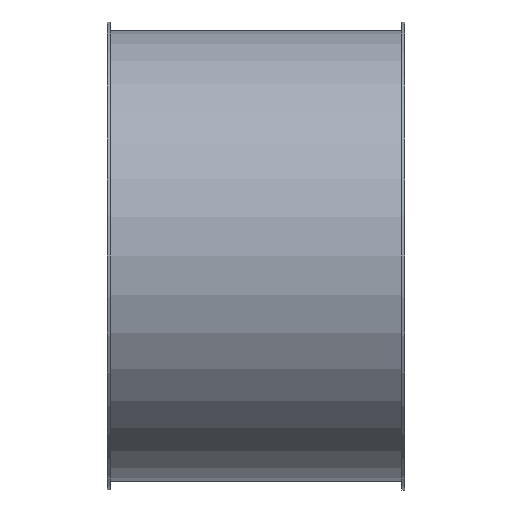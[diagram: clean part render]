
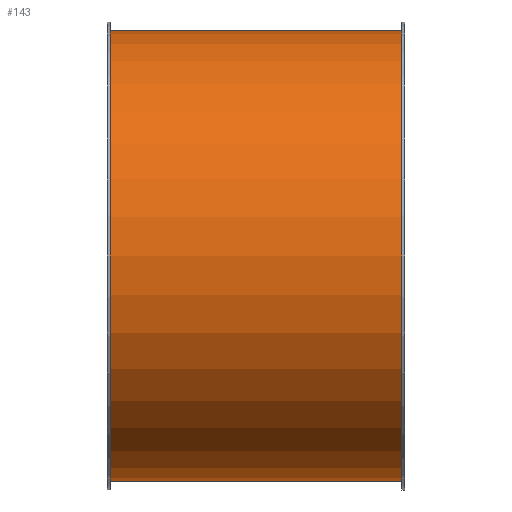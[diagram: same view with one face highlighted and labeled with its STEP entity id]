
A CAD part, front view. The second image highlights one B-rep face of the part: STEP entity #143.
In plain terms, the highlighted cylindrical face has radius 151.5 mm (diameter 303 mm), a full revolution.
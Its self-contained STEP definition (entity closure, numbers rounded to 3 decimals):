
#112=CARTESIAN_POINT('',(166.119,2.817,0.0));
#113=VERTEX_POINT('',#112);
#114=CARTESIAN_POINT('',(166.119,154.317,0.0));
#115=DIRECTION('',(-1.0,0.0,0.0));
#116=DIRECTION('',(0.0,-1.0,0.0));
#117=AXIS2_PLACEMENT_3D('',#114,#115,#116);
#118=CIRCLE('',#117,151.5);
#119=EDGE_CURVE('',#113,#113,#118,.T.);
#124=CARTESIAN_POINT('',(68.119,154.317,0.0));
#125=DIRECTION('',(-1.0,0.,0.0));
#126=DIRECTION('',(0.0,-1.0,0.0));
#127=AXIS2_PLACEMENT_3D('',#124,#125,#126);
#128=CYLINDRICAL_SURFACE('',#127,151.5);
#129=CARTESIAN_POINT('',(-29.881,2.817,0.0));
#130=VERTEX_POINT('',#129);
#131=CARTESIAN_POINT('',(-29.881,154.317,0.0));
#132=DIRECTION('',(-1.0,0.0,0.0));
#133=DIRECTION('',(0.0,-1.0,0.0));
#134=AXIS2_PLACEMENT_3D('',#131,#132,#133);
#135=CIRCLE('',#134,151.5);
#136=EDGE_CURVE('',#130,#130,#135,.T.);
#137=ORIENTED_EDGE('',*,*,#136,.F.);
#138=EDGE_LOOP('',(#137));
#139=FACE_OUTER_BOUND('',#138,.T.);
#140=ORIENTED_EDGE('',*,*,#119,.T.);
#141=EDGE_LOOP('',(#140));
#142=FACE_BOUND('',#141,.T.);
#143=ADVANCED_FACE('',(#139,#142),#128,.T.);
